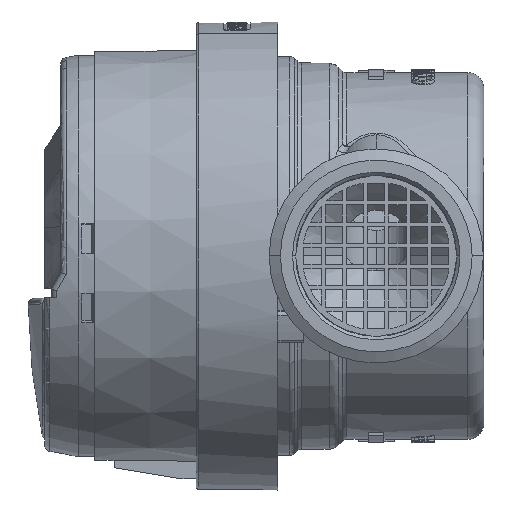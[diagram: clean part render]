
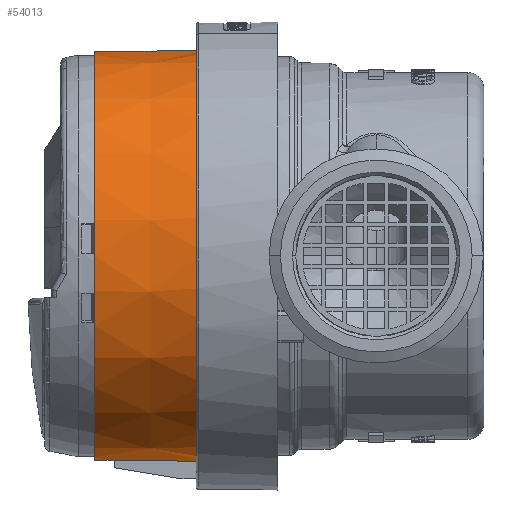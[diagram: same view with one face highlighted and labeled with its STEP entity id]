
A CAD part, left-side view. The second image highlights one B-rep face of the part: STEP entity #54013.
In plain terms, the highlighted conical face has half-angle 0.504 degrees and reference radius 31.9 mm.
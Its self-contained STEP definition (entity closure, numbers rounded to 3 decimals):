
#608 = CONICAL_SURFACE ( 'NONE', #25979, 31.9, 0.009 ) ;
#667 = DIRECTION ( 'NONE',  ( 0., -1., -0.009 ) ) ;
#1491 = CARTESIAN_POINT ( 'NONE',  ( 0., 43.674, 0. ) ) ;
#4444 = CARTESIAN_POINT ( 'NONE',  ( -1., 57.7, -31.761 ) ) ;
#5300 = CARTESIAN_POINT ( 'NONE',  ( -1., 43.834, -31.883 ) ) ;
#9020 = DIRECTION ( 'NONE',  ( 0., 0., 1. ) ) ;
#9534 = EDGE_CURVE ( 'NONE', #46006, #52442, #10057, .T. ) ;
#9601 = CARTESIAN_POINT ( 'NONE',  ( 0., 43.674, 31.9 ) ) ;
#9703 = CARTESIAN_POINT ( 'NONE',  ( -1., 55.518, -31.78 ) ) ;
#10057 = LINE ( 'NONE', #36774, #27510 ) ;
#10652 = EDGE_CURVE ( 'NONE', #54731, #50741, #50385, .T. ) ;
#11154 = DIRECTION ( 'NONE',  ( 0., 0., 1. ) ) ;
#14123 = FACE_OUTER_BOUND ( 'NONE', #25137, .T. ) ;
#14132 = CARTESIAN_POINT ( 'NONE',  ( 0., 60.75, 31.75 ) ) ;
#14412 = CARTESIAN_POINT ( 'NONE',  ( -1., 46.487, -31.86 ) ) ;
#14701 = AXIS2_PLACEMENT_3D ( 'NONE', #33187, #51957, #52248 ) ;
#15508 = CARTESIAN_POINT ( 'NONE',  ( 0., 43.674, 31.9 ) ) ;
#18389 = ORIENTED_EDGE ( 'NONE', *, *, #23117, .T. ) ;
#19451 = CARTESIAN_POINT ( 'NONE',  ( -1., 57.7, -31.761 ) ) ;
#20154 = ORIENTED_EDGE ( 'NONE', *, *, #10652, .F. ) ;
#20254 = DIRECTION ( 'NONE',  ( 0., -1., 0. ) ) ;
#20286 = DIRECTION ( 'NONE',  ( 0., -1., 0. ) ) ;
#21722 = CARTESIAN_POINT ( 'NONE',  ( 0., 60.75, 0. ) ) ;
#22162 = CARTESIAN_POINT ( 'NONE',  ( 0., 60.75, -31.75 ) ) ;
#23117 = EDGE_CURVE ( 'NONE', #34016, #31164, #44416, .T. ) ;
#25137 = EDGE_LOOP ( 'NONE', ( #57720, #29715, #38251, #18389, #28250, #20154 ) ) ;
#25979 = AXIS2_PLACEMENT_3D ( 'NONE', #1491, #20286, #11154 ) ;
#26391 = CIRCLE ( 'NONE', #43236, 31.75 ) ;
#26935 = DIRECTION ( 'NONE',  ( 0., -1., 0. ) ) ;
#27510 = VECTOR ( 'NONE', #667, 1000. ) ;
#27865 = CARTESIAN_POINT ( 'NONE',  ( -1., 43.674, -31.884 ) ) ;
#28075 = DIRECTION ( 'NONE',  ( 0., -1., 0.009 ) ) ;
#28250 = ORIENTED_EDGE ( 'NONE', *, *, #44827, .F. ) ;
#29715 = ORIENTED_EDGE ( 'NONE', *, *, #9534, .T. ) ;
#31164 = VERTEX_POINT ( 'NONE', #27865 ) ;
#32282 = CARTESIAN_POINT ( 'NONE',  ( -1., 43.994, -31.882 ) ) ;
#33187 = CARTESIAN_POINT ( 'NONE',  ( 0., 57.7, 0. ) ) ;
#34016 = VERTEX_POINT ( 'NONE', #19451 ) ;
#34260 = EDGE_CURVE ( 'NONE', #54731, #46006, #26391, .T. ) ;
#35865 = CARTESIAN_POINT ( 'NONE',  ( -1., 44.154, -31.88 ) ) ;
#36711 = CARTESIAN_POINT ( 'NONE',  ( -1., 48.82, -31.839 ) ) ;
#36774 = CARTESIAN_POINT ( 'NONE',  ( 0., 43.674, -31.9 ) ) ;
#36977 = DIRECTION ( 'NONE',  ( 0., 0., 1. ) ) ;
#38129 = CIRCLE ( 'NONE', #14701, 31.777 ) ;
#38251 = ORIENTED_EDGE ( 'NONE', *, *, #54084, .F. ) ;
#42513 = CARTESIAN_POINT ( 'NONE',  ( 0., 43.674, 0. ) ) ;
#43204 = AXIS2_PLACEMENT_3D ( 'NONE', #42513, #20254, #36977 ) ;
#43236 = AXIS2_PLACEMENT_3D ( 'NONE', #21722, #26935, #9020 ) ;
#44348 = CARTESIAN_POINT ( 'NONE',  ( -1., 43.674, -31.884 ) ) ;
#44416 = B_SPLINE_CURVE_WITH_KNOTS ( 'NONE', 3,
 ( #4444, #9703, #45499, #49337, #36711, #14412, #35865, #32282, #5300, #44348 ),
 .UNSPECIFIED., .F., .F.,
 ( 4, 3, 3, 4 ),
 ( -0.007, 0., 0.007, 0.007 ),
 .UNSPECIFIED. ) ;
#44827 = EDGE_CURVE ( 'NONE', #50741, #31164, #54503, .T. ) ;
#45499 = CARTESIAN_POINT ( 'NONE',  ( -1., 53.335, -31.799 ) ) ;
#46006 = VERTEX_POINT ( 'NONE', #22162 ) ;
#49337 = CARTESIAN_POINT ( 'NONE',  ( -1., 51.153, -31.819 ) ) ;
#50385 = LINE ( 'NONE', #9601, #57527 ) ;
#50741 = VERTEX_POINT ( 'NONE', #15508 ) ;
#51957 = DIRECTION ( 'NONE',  ( 0., -1., 0. ) ) ;
#52248 = DIRECTION ( 'NONE',  ( 0., 0., -1. ) ) ;
#52442 = VERTEX_POINT ( 'NONE', #53934 ) ;
#53934 = CARTESIAN_POINT ( 'NONE',  ( 0., 57.7, -31.777 ) ) ;
#54013 = ADVANCED_FACE ( 'NONE', ( #14123 ), #608, .T. ) ;
#54084 = EDGE_CURVE ( 'NONE', #34016, #52442, #38129, .T. ) ;
#54503 = CIRCLE ( 'NONE', #43204, 31.9 ) ;
#54731 = VERTEX_POINT ( 'NONE', #14132 ) ;
#57527 = VECTOR ( 'NONE', #28075, 1000. ) ;
#57720 = ORIENTED_EDGE ( 'NONE', *, *, #34260, .T. ) ;
